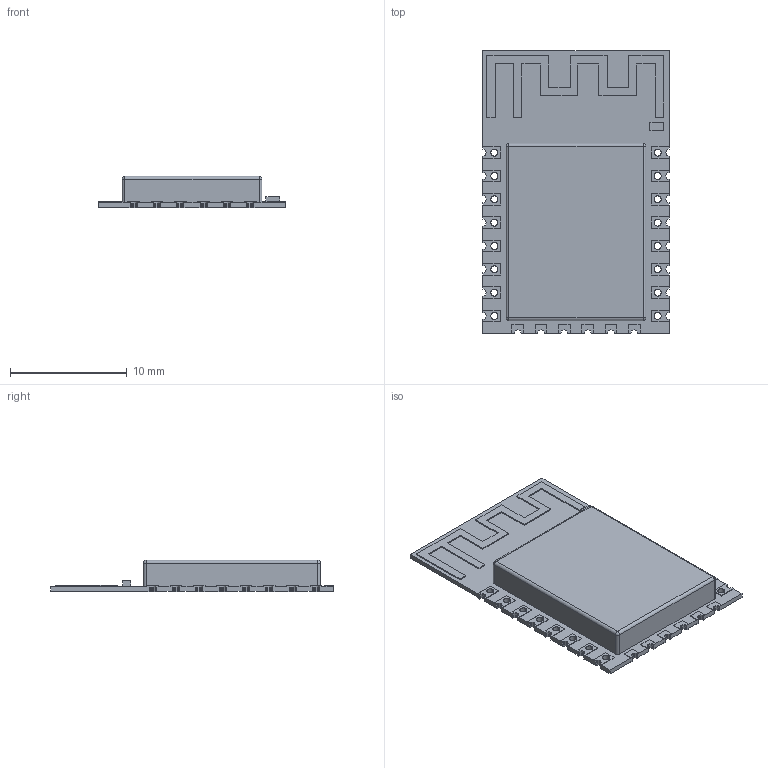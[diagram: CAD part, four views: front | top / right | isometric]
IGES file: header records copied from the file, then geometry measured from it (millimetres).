
Start section: START RECORD GO HERE.
Global section: file name: ESP-12F.igs; native system: IBM CATIA IGES - CATIA Version 5 Release 19 ; preprocessor: CATIA Version 5 Release 19 ; author: admin; organization: M0815; date: 20241028.170600; units: millimetre
Bounding box: 16 x 24.25 x 2.71 mm (x, y, z)
Surface area: 1370.1 mm2 (no closed solid volume)
Topology: 0 solids, 0 shells, 494 faces, 2864 edges, 2860 vertices
Faces by surface type: plane 450, revolution 44
